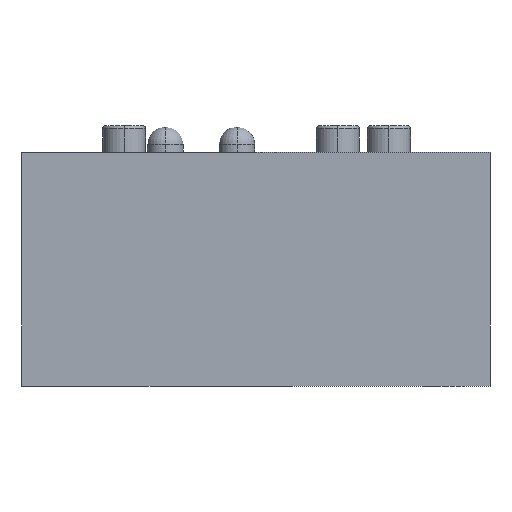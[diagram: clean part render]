
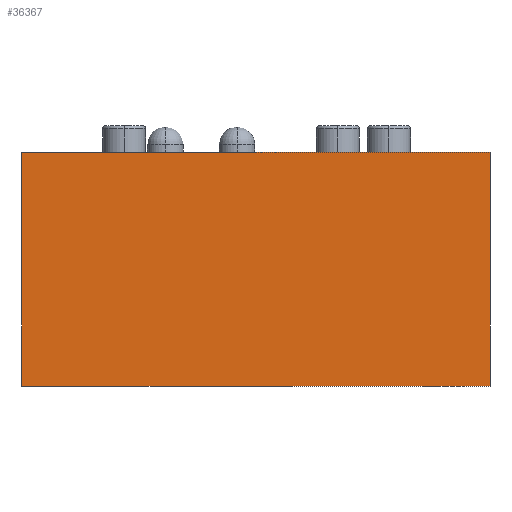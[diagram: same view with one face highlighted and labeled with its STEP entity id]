
A CAD part, left-side view. The second image highlights one B-rep face of the part: STEP entity #36367.
In plain terms, the highlighted planar face has unit normal (-1, 0, 0).
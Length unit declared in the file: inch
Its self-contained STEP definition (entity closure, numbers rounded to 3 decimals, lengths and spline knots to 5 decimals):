
#1529 = CARTESIAN_POINT ( 'NONE',  ( -4.43881, -0.66022, 1.07228 ) ) ;
#7217 = CARTESIAN_POINT ( 'NONE',  ( -4.43881, 0.83978, 1.07228 ) ) ;
#8297 = LINE ( 'NONE', #52239, #19586 ) ;
#11153 = DIRECTION ( 'NONE',  ( 0., 0., -1. ) ) ;
#13602 = DIRECTION ( 'NONE',  ( 0., 0., -1. ) ) ;
#14655 = VECTOR ( 'NONE', #54231, 39.37008 ) ;
#15681 = LINE ( 'NONE', #1529, #51417 ) ;
#15963 = FACE_OUTER_BOUND ( 'NONE', #63568, .T. ) ;
#16274 = CARTESIAN_POINT ( 'NONE',  ( -4.43881, -0.66022, 1.82228 ) ) ;
#18135 = EDGE_CURVE ( 'NONE', #43800, #51597, #8297, .T. ) ;
#18792 = AXIS2_PLACEMENT_3D ( 'NONE', #16274, #35525, #11153 ) ;
#19586 = VECTOR ( 'NONE', #47103, 39.37008 ) ;
#20639 = EDGE_CURVE ( 'NONE', #54078, #50411, #42141, .T. ) ;
#20933 = EDGE_CURVE ( 'NONE', #43800, #54078, #30788, .T. ) ;
#22026 = PLANE ( 'NONE',  #18792 ) ;
#25045 = CARTESIAN_POINT ( 'NONE',  ( -4.43881, -0.66022, 1.82228 ) ) ;
#26011 = EDGE_CURVE ( 'NONE', #51597, #50411, #15681, .T. ) ;
#26260 = CARTESIAN_POINT ( 'NONE',  ( -4.43881, -0.66022, 1.07228 ) ) ;
#27648 = CARTESIAN_POINT ( 'NONE',  ( -4.43881, 0.83978, 1.82228 ) ) ;
#30788 = LINE ( 'NONE', #25045, #14655 ) ;
#31821 = ORIENTED_EDGE ( 'NONE', *, *, #20639, .F. ) ;
#35525 = DIRECTION ( 'NONE',  ( 1., 0., 0. ) ) ;
#36367 = ADVANCED_FACE ( 'NONE', ( #15963 ), #22026, .F. ) ;
#42141 = LINE ( 'NONE', #57227, #62830 ) ;
#43657 = ORIENTED_EDGE ( 'NONE', *, *, #18135, .T. ) ;
#43800 = VERTEX_POINT ( 'NONE', #27648 ) ;
#47103 = DIRECTION ( 'NONE',  ( 0., 0., -1. ) ) ;
#50411 = VERTEX_POINT ( 'NONE', #26260 ) ;
#51417 = VECTOR ( 'NONE', #60917, 39.37008 ) ;
#51597 = VERTEX_POINT ( 'NONE', #7217 ) ;
#52171 = ORIENTED_EDGE ( 'NONE', *, *, #20933, .F. ) ;
#52239 = CARTESIAN_POINT ( 'NONE',  ( -4.43881, 0.83978, 1.82228 ) ) ;
#54078 = VERTEX_POINT ( 'NONE', #57952 ) ;
#54231 = DIRECTION ( 'NONE',  ( 0., -1., 0. ) ) ;
#56527 = ORIENTED_EDGE ( 'NONE', *, *, #26011, .T. ) ;
#57227 = CARTESIAN_POINT ( 'NONE',  ( -4.43881, -0.66022, 1.82228 ) ) ;
#57952 = CARTESIAN_POINT ( 'NONE',  ( -4.43881, -0.66022, 1.82228 ) ) ;
#60917 = DIRECTION ( 'NONE',  ( 0., -1., 0. ) ) ;
#62830 = VECTOR ( 'NONE', #13602, 39.37008 ) ;
#63568 = EDGE_LOOP ( 'NONE', ( #56527, #31821, #52171, #43657 ) ) ;
